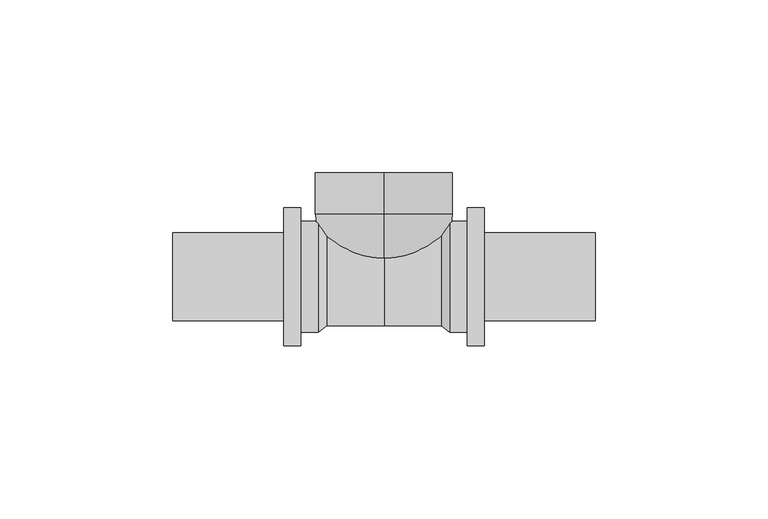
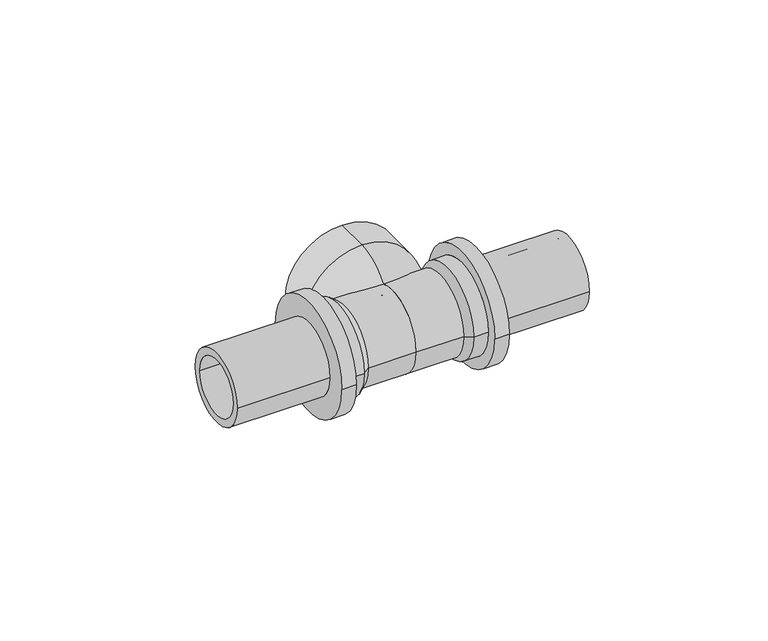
"""IFC4 building model written with IfcOpenShell, lengths in millimetres: pipe fitting geometry, REHAU_RAUTITAN_T-piece RX+, outlet with internal thread : REHAU_RAUTITAN_T-piece RX+, outlet with internal thread."""

from ifc_helpers import new_model, si_unit, point, frame, origin, place, context, project, spatial, polyline, circle_curve, ellipse_curve, trimmed, source, transform, mapped, element, save
from ifc_brep_helpers import plane_surface, cylinder_surface, revolved_surface, advanced_brep


def pipe_fitting_fa567dae(model_context):
    return source(origin(), model_context, "Body", "AdvancedBrep", [
        advanced_brep(
        [(-29.0, 12.725, 0.0), (-29.0, -12.725, 0.0), (-61.0, -12.725, 0.0), (-61.0, 12.725, 0.0), (-24.0, 20.0, 0.0), (-24.0, -20.0, 0.0), (-29.0, -20.0, 0.0), (-29.0, 20.0, 0.0), (-19.0, 16.0, 0.0), (-19.0, -16.0, 0.0), (-24.0, -16.0, 0.0), (-24.0, 16.0, 0.0), (-16.5, 14.19, 0.0), (-16.5, -14.19, 0.0), (0.0, 14.19, 0.0), (0.0, -14.19, 0.0), (-16.5, 10.5, 0.0), (-16.5, -10.5, 0.0), (0.0, -10.5, 0.0), (0.0, 10.5, 0.0), (-19.0, 10.0, 0.0), (-19.0, -10.0, 0.0), (-61.0, 10.0, 0.0), (-61.0, -10.0, 0.0)],
        [
            (0, 1, circle_curve(frame((-29.0, 0.0, 0.0), z_axis=(-1.0, 0.0, 0.0), x_axis=(0.0, -1.0, 0.0)), 12.725)),
            (1, 2),
            (2, 3, circle_curve(frame((-61.0, 0.0, 0.0), z_axis=(1.0, 0.0, 0.0), x_axis=(0.0, -1.0, 0.0)), 12.725)),
            (3, 0),
            (4, 5, circle_curve(frame((-24.0, 0.0, 0.0), z_axis=(-1.0, 0.0, 0.0), x_axis=(0.0, -1.0, 0.0)), 20.0)),
            (5, 6),
            (6, 7, circle_curve(frame((-29.0, 0.0, 0.0), z_axis=(1.0, 0.0, 0.0), x_axis=(0.0, -1.0, 0.0)), 20.0)),
            (7, 4),
            (8, 9, circle_curve(frame((-19.0, 0.0, 0.0), z_axis=(-1.0, 0.0, 0.0), x_axis=(0.0, -1.0, 0.0)), 16.0)),
            (9, 10),
            (10, 11, circle_curve(frame((-24.0, 0.0, 0.0), z_axis=(1.0, 0.0, 0.0), x_axis=(0.0, -1.0, 0.0)), 16.0)),
            (11, 8),
            (12, 13, circle_curve(frame((-16.5, 0.0, 0.0), z_axis=(-1.0, 0.0, 0.0), x_axis=(0.0, -1.0, 0.0)), 14.19)),
            (13, 9),
            (8, 12),
            (14, 15, circle_curve(frame((0.0, 0.0, 0.0), z_axis=(-1.0, 0.0, 0.0), x_axis=(0.0, -1.0, 0.0)), 14.19)),
            (15, 13),
            (12, 14),
            (16, 17, circle_curve(frame((-16.5, 0.0, 0.0), z_axis=(-1.0, 0.0, 0.0), x_axis=(0.0, -1.0, 0.0)), 10.5)),
            (17, 18),
            (18, 19, circle_curve(frame((0.0, 0.0, 0.0), z_axis=(1.0, 0.0, 0.0), x_axis=(0.0, -1.0, 0.0)), 10.5)),
            (19, 16),
            (20, 21, circle_curve(frame((-19.0, 0.0, 0.0), z_axis=(-1.0, 0.0, 0.0), x_axis=(0.0, -1.0, 0.0)), 10.0)),
            (21, 17),
            (16, 20),
            (22, 23, circle_curve(frame((-61.0, 0.0, 0.0), z_axis=(-1.0, 0.0, 0.0), x_axis=(0.0, -1.0, 0.0)), 10.0)),
            (23, 21),
            (20, 22),
            (1, 0, circle_curve(frame((-29.0, 0.0, 0.0), z_axis=(-1.0, 0.0, 0.0), x_axis=(0.0, 1.0, 0.0)), 12.725)),
            (3, 2, circle_curve(frame((-61.0, 0.0, 0.0), z_axis=(1.0, 0.0, 0.0), x_axis=(0.0, 1.0, 0.0)), 12.725)),
            (6, 7, circle_curve(frame((-29.0, 0.0, 0.0), z_axis=(-1.0, 0.0, 0.0), x_axis=(0.0, 1.0, 0.0)), 20.0)),
            (5, 4, circle_curve(frame((-24.0, 0.0, 0.0), z_axis=(-1.0, 0.0, 0.0), x_axis=(0.0, 1.0, 0.0)), 20.0)),
            (10, 11, circle_curve(frame((-24.0, 0.0, 0.0), z_axis=(-1.0, 0.0, 0.0), x_axis=(0.0, 1.0, 0.0)), 16.0)),
            (9, 8, circle_curve(frame((-19.0, 0.0, 0.0), z_axis=(-1.0, 0.0, 0.0), x_axis=(0.0, 1.0, 0.0)), 16.0)),
            (13, 12, circle_curve(frame((-16.5, 0.0, 0.0), z_axis=(-1.0, 0.0, 0.0), x_axis=(0.0, 1.0, 0.0)), 14.19)),
            (15, 14, circle_curve(frame((0.0, 0.0, 0.0), z_axis=(-1.0, 0.0, 0.0), x_axis=(0.0, 1.0, 0.0)), 14.19)),
            (18, 19, circle_curve(frame((0.0, 0.0, 0.0), z_axis=(-1.0, 0.0, 0.0), x_axis=(0.0, 1.0, 0.0)), 10.5)),
            (17, 16, circle_curve(frame((-16.5, 0.0, 0.0), z_axis=(-1.0, 0.0, 0.0), x_axis=(0.0, 1.0, 0.0)), 10.5)),
            (21, 20, circle_curve(frame((-19.0, 0.0, 0.0), z_axis=(-1.0, 0.0, 0.0), x_axis=(0.0, 1.0, 0.0)), 10.0)),
            (23, 22, circle_curve(frame((-61.0, 0.0, 0.0), z_axis=(-1.0, 0.0, 0.0), x_axis=(0.0, 1.0, 0.0)), 10.0)),
        ],
        [
            cylinder_surface(frame((0.0, 0.0, 0.0), z_axis=(1.0, 0.0, 0.0), x_axis=(0.0, -1.0, 0.0)), 12.725),
            cylinder_surface(frame((0.0, 0.0, 0.0), z_axis=(1.0, 0.0, 0.0), x_axis=(0.0, -1.0, 0.0)), 20.0),
            cylinder_surface(frame((0.0, 0.0, 0.0), z_axis=(1.0, 0.0, 0.0), x_axis=(0.0, -1.0, 0.0)), 16.0),
            revolved_surface(polyline([(-19.0, -16.0, 0.0), (-16.5, -14.19, 0.0)]), (0.0, 0.0, 0.0), (1.0, 0.0, 0.0)),
            cylinder_surface(frame((0.0, 0.0, 0.0), z_axis=(1.0, 0.0, 0.0), x_axis=(0.0, -1.0, 0.0)), 14.19),
            revolved_surface(polyline([(0.0, -10.5, 0.0), (-16.5, -10.5, 0.0)]), (0.0, 0.0, 0.0), (1.0, 0.0, 0.0)),
            revolved_surface(polyline([(-16.5, -10.5, 0.0), (-19.0, -10.0, 0.0)]), (0.0, 0.0, 0.0), (1.0, 0.0, 0.0)),
            revolved_surface(polyline([(-19.0, -10.0, 0.0), (-61.0, -10.0, 0.0)]), (0.0, 0.0, 0.0), (1.0, 0.0, 0.0)),
            cylinder_surface(frame((0.0, 0.0, 0.0), z_axis=(1.0, 0.0, 0.0), x_axis=(0.0, 1.0, 0.0)), 12.725),
            plane_surface(frame((-29.0, 0.0, 0.0), z_axis=(-1.0, 0.0, 0.0), x_axis=(0.0, 1.0, 0.0))),
            cylinder_surface(frame((0.0, 0.0, 0.0), z_axis=(1.0, 0.0, 0.0), x_axis=(0.0, 1.0, 0.0)), 20.0),
            plane_surface(frame((-24.0, 0.0, 0.0), z_axis=(1.0, 0.0, 0.0), x_axis=(0.0, 1.0, 0.0))),
            cylinder_surface(frame((0.0, 0.0, 0.0), z_axis=(1.0, 0.0, 0.0), x_axis=(0.0, 1.0, 0.0)), 16.0),
            revolved_surface(polyline([(-19.0, 16.0, 0.0), (-16.5, 14.19, 0.0)]), (0.0, 0.0, 0.0), (1.0, 0.0, 0.0)),
            cylinder_surface(frame((0.0, 0.0, 0.0), z_axis=(1.0, 0.0, 0.0), x_axis=(0.0, 1.0, 0.0)), 14.19),
            plane_surface(frame((0.0, 0.0, 0.0), z_axis=(1.0, 0.0, 0.0), x_axis=(0.0, 1.0, 0.0))),
            revolved_surface(polyline([(0.0, 10.5, 0.0), (-16.5, 10.5, 0.0)]), (0.0, 0.0, 0.0), (1.0, 0.0, 0.0)),
            revolved_surface(polyline([(-16.5, 10.5, 0.0), (-19.0, 10.0, 0.0)]), (0.0, 0.0, 0.0), (1.0, 0.0, 0.0)),
            revolved_surface(polyline([(-19.0, 10.0, 0.0), (-61.0, 10.0, 0.0)]), (0.0, 0.0, 0.0), (1.0, 0.0, 0.0)),
            plane_surface(frame((-61.0, 0.0, 0.0), z_axis=(-1.0, 0.0, 0.0), x_axis=(0.0, 1.0, 0.0))),
        ],
        [
            (0, [[1, 2, 3, 4]]),
            (1, [[5, 6, 7, 8]]),
            (2, [[9, 10, 11, 12]]),
            (3, [[13, 14, -9, 15]]),
            (4, [[16, 17, -13, 18]]),
            (5, [[19, 20, 21, 22]]),
            (6, [[23, 24, -19, 25]]),
            (7, [[26, 27, -23, 28]]),
            (8, [[29, -4, 30, -2]]),
            (9, [[31, -7], [-29, -1]]),
            (10, [[32, -8, -31, -6]]),
            (11, [[-32, -5], [33, -11]]),
            (12, [[34, -12, -33, -10]]),
            (13, [[35, -15, -34, -14]]),
            (14, [[36, -18, -35, -17]]),
            (15, [[-36, -16], [37, -21]]),
            (16, [[38, -22, -37, -20]]),
            (17, [[39, -25, -38, -24]]),
            (18, [[40, -28, -39, -27]]),
            (19, [[-30, -3], [-40, -26]]),
        ],
    ),
        advanced_brep(
        [(19.0, 10.0, 0.0), (19.0, -10.0, 0.0), (61.0, -10.0, 0.0), (61.0, 10.0, 0.0), (16.5, 10.5, 0.0), (16.5, -10.5, 0.0), (0.0, 10.5, 0.0), (0.0, -10.5, 0.0), (16.5, 14.19, 0.0), (16.5, -14.19, 0.0), (0.0, -14.19, 0.0), (0.0, 14.19, 0.0), (19.0, 16.0, 0.0), (19.0, -16.0, 0.0), (24.0, 16.0, 0.0), (24.0, -16.0, 0.0), (29.0, 20.0, 0.0), (29.0, -20.0, 0.0), (24.0, -20.0, 0.0), (24.0, 20.0, 0.0), (61.0, 12.725, 0.0), (61.0, -12.725, 0.0), (29.0, -12.725, 0.0), (29.0, 12.725, 0.0)],
        [
            (0, 1, circle_curve(frame((19.0, 0.0, 0.0), z_axis=(-1.0, 0.0, 0.0), x_axis=(0.0, -1.0, 0.0)), 10.0)),
            (1, 2),
            (2, 3, circle_curve(frame((61.0, 0.0, 0.0), z_axis=(1.0, 0.0, 0.0), x_axis=(0.0, -1.0, 0.0)), 10.0)),
            (3, 0),
            (4, 5, circle_curve(frame((16.5, 0.0, 0.0), z_axis=(-1.0, 0.0, 0.0), x_axis=(0.0, -1.0, 0.0)), 10.5)),
            (5, 1),
            (0, 4),
            (6, 7, circle_curve(frame((0.0, 0.0, 0.0), z_axis=(-1.0, 0.0, 0.0), x_axis=(0.0, -1.0, 0.0)), 10.5)),
            (7, 5),
            (4, 6),
            (8, 9, circle_curve(frame((16.5, 0.0, 0.0), z_axis=(-1.0, 0.0, 0.0), x_axis=(0.0, -1.0, 0.0)), 14.19)),
            (9, 10),
            (10, 11, circle_curve(frame((0.0, 0.0, 0.0), z_axis=(1.0, 0.0, 0.0), x_axis=(0.0, -1.0, 0.0)), 14.19)),
            (11, 8),
            (12, 13, circle_curve(frame((19.0, 0.0, 0.0), z_axis=(-1.0, 0.0, 0.0), x_axis=(0.0, -1.0, 0.0)), 16.0)),
            (13, 9),
            (8, 12),
            (14, 15, circle_curve(frame((24.0, 0.0, 0.0), z_axis=(-1.0, 0.0, 0.0), x_axis=(0.0, -1.0, 0.0)), 16.0)),
            (15, 13),
            (12, 14),
            (16, 17, circle_curve(frame((29.0, 0.0, 0.0), z_axis=(-1.0, 0.0, 0.0), x_axis=(0.0, -1.0, 0.0)), 20.0)),
            (17, 18),
            (18, 19, circle_curve(frame((24.0, 0.0, 0.0), z_axis=(1.0, 0.0, 0.0), x_axis=(0.0, -1.0, 0.0)), 20.0)),
            (19, 16),
            (20, 21, circle_curve(frame((61.0, 0.0, 0.0), z_axis=(-1.0, 0.0, 0.0), x_axis=(0.0, -1.0, 0.0)), 12.725)),
            (21, 22),
            (22, 23, circle_curve(frame((29.0, 0.0, 0.0), z_axis=(1.0, 0.0, 0.0), x_axis=(0.0, -1.0, 0.0)), 12.725)),
            (23, 20),
            (20, 21, circle_curve(frame((61.0, 0.0, 0.0), z_axis=(1.0, 0.0, 0.0), x_axis=(0.0, 1.0, 0.0)), 12.725)),
            (2, 3, circle_curve(frame((61.0, 0.0, 0.0), z_axis=(-1.0, 0.0, 0.0), x_axis=(0.0, 1.0, 0.0)), 10.0)),
            (1, 0, circle_curve(frame((19.0, 0.0, 0.0), z_axis=(-1.0, 0.0, 0.0), x_axis=(0.0, 1.0, 0.0)), 10.0)),
            (5, 4, circle_curve(frame((16.5, 0.0, 0.0), z_axis=(-1.0, 0.0, 0.0), x_axis=(0.0, 1.0, 0.0)), 10.5)),
            (7, 6, circle_curve(frame((0.0, 0.0, 0.0), z_axis=(-1.0, 0.0, 0.0), x_axis=(0.0, 1.0, 0.0)), 10.5)),
            (10, 11, circle_curve(frame((0.0, 0.0, 0.0), z_axis=(-1.0, 0.0, 0.0), x_axis=(0.0, 1.0, 0.0)), 14.19)),
            (9, 8, circle_curve(frame((16.5, 0.0, 0.0), z_axis=(-1.0, 0.0, 0.0), x_axis=(0.0, 1.0, 0.0)), 14.19)),
            (13, 12, circle_curve(frame((19.0, 0.0, 0.0), z_axis=(-1.0, 0.0, 0.0), x_axis=(0.0, 1.0, 0.0)), 16.0)),
            (15, 14, circle_curve(frame((24.0, 0.0, 0.0), z_axis=(-1.0, 0.0, 0.0), x_axis=(0.0, 1.0, 0.0)), 16.0)),
            (18, 19, circle_curve(frame((24.0, 0.0, 0.0), z_axis=(-1.0, 0.0, 0.0), x_axis=(0.0, 1.0, 0.0)), 20.0)),
            (17, 16, circle_curve(frame((29.0, 0.0, 0.0), z_axis=(-1.0, 0.0, 0.0), x_axis=(0.0, 1.0, 0.0)), 20.0)),
            (22, 23, circle_curve(frame((29.0, 0.0, 0.0), z_axis=(-1.0, 0.0, 0.0), x_axis=(0.0, 1.0, 0.0)), 12.725)),
        ],
        [
            revolved_surface(polyline([(61.0, -10.0, 0.0), (19.0, -10.0, 0.0)]), (0.0, 0.0, 0.0), (1.0, 0.0, 0.0)),
            revolved_surface(polyline([(19.0, -10.0, 0.0), (16.5, -10.5, 0.0)]), (0.0, 0.0, 0.0), (1.0, 0.0, 0.0)),
            revolved_surface(polyline([(16.5, -10.5, 0.0), (0.0, -10.5, 0.0)]), (0.0, 0.0, 0.0), (1.0, 0.0, 0.0)),
            cylinder_surface(frame((0.0, 0.0, 0.0), z_axis=(1.0, 0.0, 0.0), x_axis=(0.0, -1.0, 0.0)), 14.19),
            revolved_surface(polyline([(16.5, -14.19, 0.0), (19.0, -16.0, 0.0)]), (0.0, 0.0, 0.0), (1.0, 0.0, 0.0)),
            cylinder_surface(frame((0.0, 0.0, 0.0), z_axis=(1.0, 0.0, 0.0), x_axis=(0.0, -1.0, 0.0)), 16.0),
            cylinder_surface(frame((0.0, 0.0, 0.0), z_axis=(1.0, 0.0, 0.0), x_axis=(0.0, -1.0, 0.0)), 20.0),
            cylinder_surface(frame((0.0, 0.0, 0.0), z_axis=(1.0, 0.0, 0.0), x_axis=(0.0, -1.0, 0.0)), 12.725),
            plane_surface(frame((61.0, 0.0, 0.0), z_axis=(1.0, 0.0, 0.0), x_axis=(0.0, 1.0, 0.0))),
            revolved_surface(polyline([(61.0, 10.0, 0.0), (19.0, 10.0, 0.0)]), (0.0, 0.0, 0.0), (1.0, 0.0, 0.0)),
            revolved_surface(polyline([(19.0, 10.0, 0.0), (16.5, 10.5, 0.0)]), (0.0, 0.0, 0.0), (1.0, 0.0, 0.0)),
            revolved_surface(polyline([(16.5, 10.5, 0.0), (0.0, 10.5, 0.0)]), (0.0, 0.0, 0.0), (1.0, 0.0, 0.0)),
            plane_surface(frame((0.0, 0.0, 0.0), z_axis=(-1.0, 0.0, 0.0), x_axis=(0.0, 1.0, 0.0))),
            cylinder_surface(frame((0.0, 0.0, 0.0), z_axis=(1.0, 0.0, 0.0), x_axis=(0.0, 1.0, 0.0)), 14.19),
            revolved_surface(polyline([(16.5, 14.19, 0.0), (19.0, 16.0, 0.0)]), (0.0, 0.0, 0.0), (1.0, 0.0, 0.0)),
            cylinder_surface(frame((0.0, 0.0, 0.0), z_axis=(1.0, 0.0, 0.0), x_axis=(0.0, 1.0, 0.0)), 16.0),
            plane_surface(frame((24.0, 0.0, 0.0), z_axis=(-1.0, 0.0, 0.0), x_axis=(0.0, 1.0, 0.0))),
            cylinder_surface(frame((0.0, 0.0, 0.0), z_axis=(1.0, 0.0, 0.0), x_axis=(0.0, 1.0, 0.0)), 20.0),
            plane_surface(frame((29.0, 0.0, 0.0), z_axis=(1.0, 0.0, 0.0), x_axis=(0.0, 1.0, 0.0))),
            cylinder_surface(frame((0.0, 0.0, 0.0), z_axis=(1.0, 0.0, 0.0), x_axis=(0.0, 1.0, 0.0)), 12.725),
        ],
        [
            (0, [[1, 2, 3, 4]]),
            (1, [[5, 6, -1, 7]]),
            (2, [[8, 9, -5, 10]]),
            (3, [[11, 12, 13, 14]]),
            (4, [[15, 16, -11, 17]]),
            (5, [[18, 19, -15, 20]]),
            (6, [[21, 22, 23, 24]]),
            (7, [[25, 26, 27, 28]]),
            (8, [[29, -25], [30, -3]]),
            (9, [[31, -4, -30, -2]]),
            (10, [[32, -7, -31, -6]]),
            (11, [[33, -10, -32, -9]]),
            (12, [[34, -13], [-33, -8]]),
            (13, [[35, -14, -34, -12]]),
            (14, [[36, -17, -35, -16]]),
            (15, [[37, -20, -36, -19]]),
            (16, [[38, -23], [-37, -18]]),
            (17, [[39, -24, -38, -22]]),
            (18, [[-39, -21], [40, -27]]),
            (19, [[-29, -28, -40, -26]]),
        ],
    ),
        advanced_brep(
        [(0.0, 1.9427828, 4.33), (0.0, 1.9427828, -4.33), (0.0, 18.0, -19.895), (0.0, 18.0, 19.895), (0.0, 5.7752209, 4.33), (0.0, 5.7752209, -4.33), (0.0, 18.0, 16.065), (0.0, 18.0, -16.065), (0.0, 30.0, 16.065), (0.0, 30.0, -16.065), (0.0, 30.0, -19.895), (0.0, 30.0, 19.895)],
        [
            (0, 1, circle_curve(frame((0.0, 1.9427828, 0.0), z_axis=(0.0, 1.0, 0.0), x_axis=(0.0, 0.0, -1.0)), 4.33)),
            (1, 2, circle_curve(frame((0.0, 18.0, -3.83), z_axis=(1.0, 0.0, 0.0), x_axis=(0.0, 1.0, 0.0)), 16.065)),
            (2, 3, circle_curve(frame((0.0, 18.0, 0.0), z_axis=(0.0, -1.0, 0.0), x_axis=(0.0, 0.0, -1.0)), 19.895)),
            (3, 0, circle_curve(frame((0.0, 18.0, 3.83), z_axis=(1.0, 0.0, 0.0), x_axis=(0.0, 1.0, 0.0)), 16.065)),
            (4, 5, circle_curve(frame((0.0, 5.7752209, 0.0), z_axis=(0.0, 1.0, 0.0), x_axis=(0.0, 0.0, -1.0)), 4.33)),
            (5, 1),
            (0, 4),
            (6, 7, circle_curve(frame((0.0, 18.0, 0.0), z_axis=(0.0, 1.0, 0.0), x_axis=(0.0, 0.0, -1.0)), 16.065)),
            (7, 5, circle_curve(frame((0.0, 18.0, -3.83), z_axis=(-1.0, 0.0, 0.0), x_axis=(0.0, 1.0, 0.0)), 12.235)),
            (4, 6, circle_curve(frame((0.0, 18.0, 3.83), z_axis=(-1.0, 0.0, 0.0), x_axis=(0.0, 1.0, 0.0)), 12.235)),
            (8, 9, circle_curve(frame((0.0, 30.0, 0.0), z_axis=(0.0, 1.0, 0.0), x_axis=(0.0, 0.0, -1.0)), 16.065)),
            (9, 7),
            (6, 8),
            (2, 10),
            (10, 11, circle_curve(frame((0.0, 30.0, 0.0), z_axis=(0.0, -1.0, 0.0), x_axis=(0.0, 0.0, -1.0)), 19.895)),
            (11, 3),
            (1, 0, circle_curve(frame((0.0, 1.9427828, 0.0), z_axis=(0.0, 1.0, 0.0), x_axis=(0.0, 0.0, 1.0)), 4.33)),
            (3, 2, circle_curve(frame((0.0, 18.0, 0.0), z_axis=(0.0, -1.0, 0.0), x_axis=(0.0, 0.0, 1.0)), 19.895)),
            (5, 4, circle_curve(frame((0.0, 5.7752209, 0.0), z_axis=(0.0, 1.0, 0.0), x_axis=(0.0, 0.0, 1.0)), 4.33)),
            (7, 6, circle_curve(frame((0.0, 18.0, 0.0), z_axis=(0.0, 1.0, 0.0), x_axis=(0.0, 0.0, 1.0)), 16.065)),
            (9, 8, circle_curve(frame((0.0, 30.0, 0.0), z_axis=(0.0, 1.0, 0.0), x_axis=(0.0, 0.0, 1.0)), 16.065)),
            (10, 11, circle_curve(frame((0.0, 30.0, 0.0), z_axis=(0.0, 1.0, 0.0), x_axis=(0.0, 0.0, 1.0)), 19.895)),
        ],
        [
            revolved_surface(trimmed(ellipse_curve(frame((0.0, 18.0, -3.83), z_axis=(-1.0, 0.0, 0.0), x_axis=(0.0, 1.0, 0.0)), 16.065, 16.065), [point((0.0, 18.0, -19.895))], [point((0.0, 1.9427828, -4.33))], True, "CARTESIAN"), (0.0, 0.0, 0.0), (0.0, -1.0, 0.0)),
            revolved_surface(polyline([(0.0, 1.9427828, -4.33), (0.0, 5.7752209, -4.33)]), (0.0, 0.0, 0.0), (0.0, -1.0, 0.0)),
            revolved_surface(trimmed(ellipse_curve(frame((0.0, 18.0, -3.83), z_axis=(1.0, 0.0, 0.0), x_axis=(0.0, 1.0, 0.0)), 12.235, 12.235), [point((0.0, 5.7752209, -4.33))], [point((0.0, 18.0, -16.065))], True, "CARTESIAN"), (0.0, 0.0, 0.0), (0.0, -1.0, 0.0)),
            revolved_surface(polyline([(0.0, 18.0, -16.065), (0.0, 30.0, -16.065)]), (0.0, 0.0, 0.0), (0.0, -1.0, 0.0)),
            cylinder_surface(frame((0.0, 0.0, 0.0), z_axis=(0.0, -1.0, 0.0), x_axis=(0.0, 0.0, -1.0)), 19.895),
            revolved_surface(trimmed(ellipse_curve(frame((0.0, 18.0, 3.83), z_axis=(1.0, 0.0, 0.0), x_axis=(0.0, 1.0, 0.0)), 16.065, 16.065), [point((0.0, 18.0, 19.895))], [point((0.0, 1.9427828, 4.33))], True, "CARTESIAN"), (0.0, 0.0, 0.0), (0.0, -1.0, 0.0)),
            revolved_surface(polyline([(0.0, 1.9427828, 4.33), (0.0, 5.7752209, 4.33)]), (0.0, 0.0, 0.0), (0.0, -1.0, 0.0)),
            revolved_surface(trimmed(ellipse_curve(frame((0.0, 18.0, 3.83), z_axis=(-1.0, 0.0, 0.0), x_axis=(0.0, 1.0, 0.0)), 12.235, 12.235), [point((0.0, 5.7752209, 4.33))], [point((0.0, 18.0, 16.065))], True, "CARTESIAN"), (0.0, 0.0, 0.0), (0.0, -1.0, 0.0)),
            revolved_surface(polyline([(0.0, 18.0, 16.065), (0.0, 30.0, 16.065)]), (0.0, 0.0, 0.0), (0.0, -1.0, 0.0)),
            plane_surface(frame((0.0, 30.0, 0.0), z_axis=(0.0, 1.0, 0.0), x_axis=(0.0, 0.0, 1.0))),
            cylinder_surface(frame((0.0, 0.0, 0.0), z_axis=(0.0, -1.0, 0.0), x_axis=(0.0, 0.0, 1.0)), 19.895),
        ],
        [
            (0, [[1, 2, 3, 4]]),
            (1, [[5, 6, -1, 7]]),
            (2, [[8, 9, -5, 10]]),
            (3, [[11, 12, -8, 13]]),
            (4, [[-3, 14, 15, 16]]),
            (5, [[17, -4, 18, -2]]),
            (6, [[19, -7, -17, -6]]),
            (7, [[20, -10, -19, -9]]),
            (8, [[21, -13, -20, -12]]),
            (9, [[22, -15], [-21, -11]]),
            (10, [[-18, -16, -22, -14]]),
        ],
    ),
    ])


if __name__ == "__main__":
    model = new_model("IFC4")
    model_context = context("Model", 3, world=origin())
    ifc_project = project(units=[si_unit("LENGTHUNIT", "METRE", prefix="MILLI")], contexts=[model_context])
    site = spatial("IfcSite", under=ifc_project)
    building = spatial("IfcBuilding", under=site)
    placement = place(None, origin())
    pipe_fitting_shape = pipe_fitting_fa567dae(model_context)
    element("IfcPipeFitting", 1, ObjectType="REHAU_RAUTITAN_T-piece RX+, outlet with internal thread : REHAU_RAUTITAN_T-piece RX+, outlet with internal thread", at=placement, inside=building, context=model_context, shape_type="MappedRepresentation", body=[
        mapped(pipe_fitting_shape, transform((0.0, 0.0, 0.0), x_axis=(1.0, 0.0, 0.0), y_axis=(0.0, 1.0, 0.0), z_axis=(0.0, 0.0, 1.0))),
    ])
    save(model, "model.ifc")
